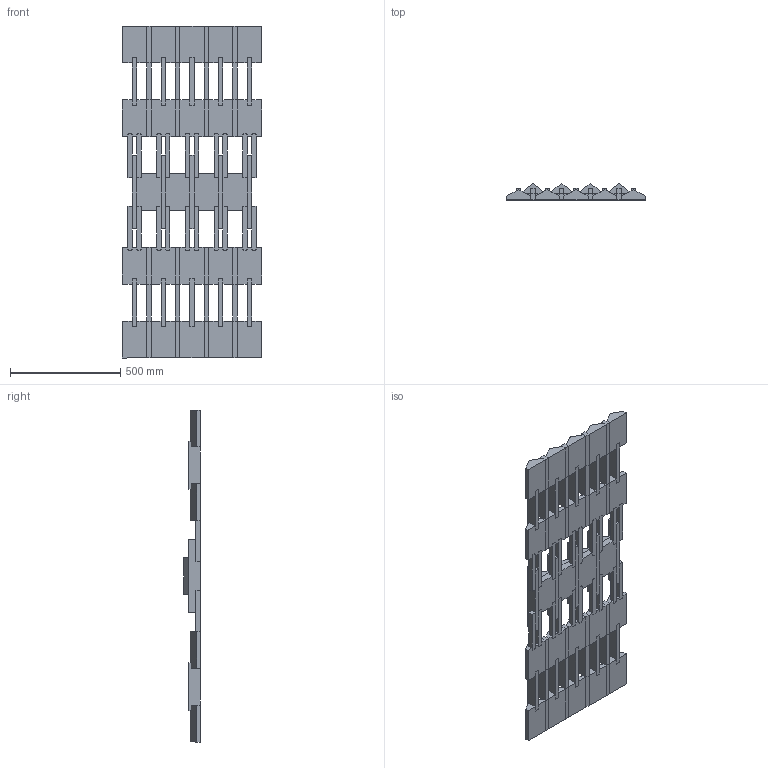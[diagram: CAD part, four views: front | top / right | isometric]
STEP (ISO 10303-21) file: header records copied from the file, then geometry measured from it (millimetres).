
FILE_DESCRIPTION (( 'STEP AP203' ), '1' );
FILE_NAME ('WEDGED WALL WOOD RUG 150x63x8.STEP', '2023-09-18T06:25:21', ( '' ), ( '' ), 'SwSTEP 2.0', 'SolidWorks 2023', '' );
FILE_SCHEMA (( 'CONFIG_CONTROL_DESIGN' ));
Length unit declared in the file: millimetre
Products named in the file (2): Group1^WEDGED WALL WOOD RUG 150x63x8; WEDGED WALL WOOD RUG 150x63x8
Assembly tree (1 placements, depth 2):
  WEDGED WALL WOOD RUG 150x63x8
    Group1^WEDGED WALL WOOD RUG 150x63x8
Bounding box: 630 x 75.48 x 1503 mm (x, y, z)
Volume: 23607211.1 mm3; surface area: 2169111.8 mm2
Topology: 1 solids, 1 shells, 482 faces, 1464 edges, 916 vertices
Faces by surface type: plane 458, cylinder 24
Entity records: 16244 total; most frequent: ORIENTED_EDGE 2928, CARTESIAN_POINT 2866, DIRECTION 2540, EDGE_CURVE 1464, LINE 1360, VECTOR 1360, VERTEX_POINT 916, AXIS2_PLACEMENT_3D 590
